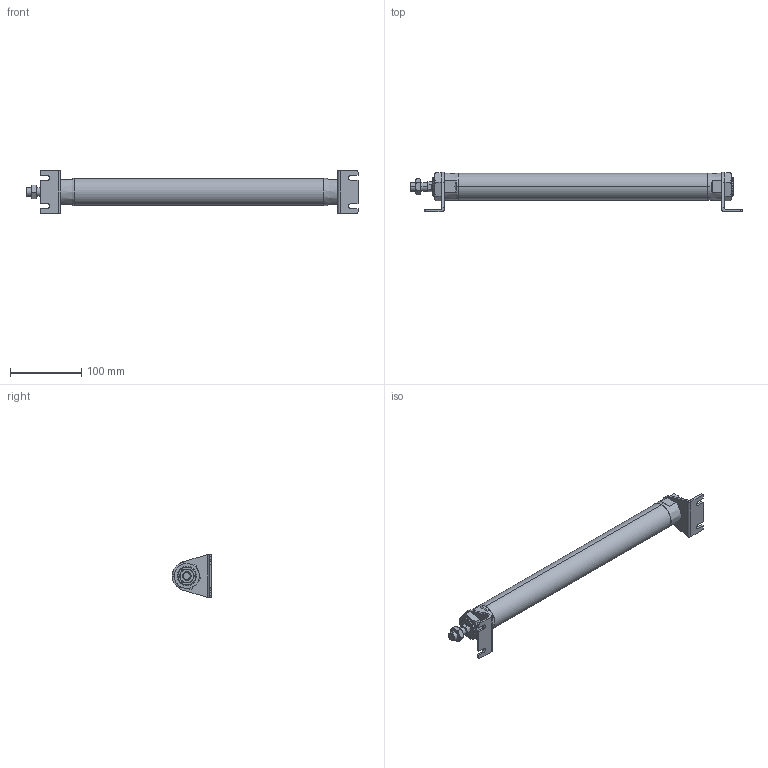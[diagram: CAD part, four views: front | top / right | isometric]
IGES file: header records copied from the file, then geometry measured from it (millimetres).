
Start section: SolidWorks IGES file using analytic representation for surfaces
Global section: file name: C:\Users\Toshiba\Desktop\J#2-32-300-L.IGS; native system: SolidWorks 2014; preprocessor: SolidWorks 2014; author: Toshiba; date: 160310.090311; units: millimetre
Bounding box: 465.2 x 55.5 x 60 mm (x, y, z)
Surface area: 75726 mm2 (no closed solid volume)
Topology: 0 solids, 0 shells, 170 faces, 2728 edges, 2724 vertices
Faces by surface type: bspline 107, revolution 63
